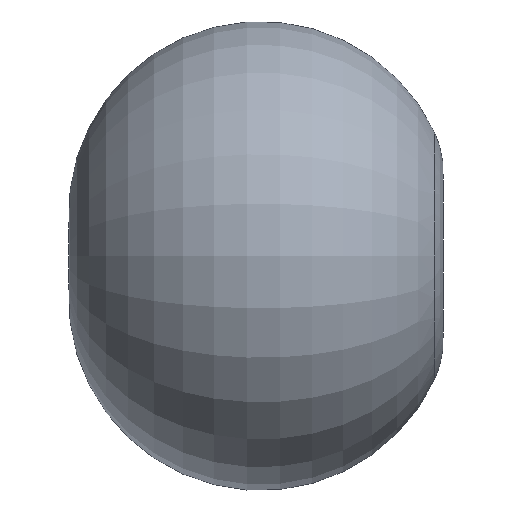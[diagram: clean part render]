
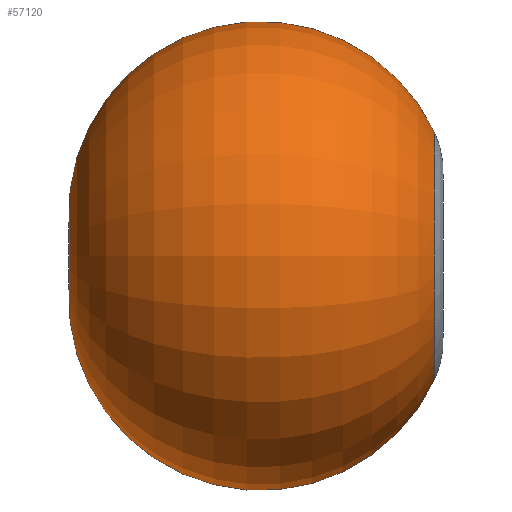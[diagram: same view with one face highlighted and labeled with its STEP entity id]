
A CAD part, left-side view. The second image highlights one B-rep face of the part: STEP entity #57120.
In plain terms, the highlighted toroidal (fillet/blend) face has major radius 300 mm and minor radius 1350.85 mm.
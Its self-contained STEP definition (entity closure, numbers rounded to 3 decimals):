
#16941 = CARTESIAN_POINT ( 'NONE',  ( 0., 600., -300. ) ) ;
#17045 = CARTESIAN_POINT ( 'NONE',  ( 0., 1917.113, 0. ) ) ;
#17047 = DIRECTION ( 'NONE',  ( 0., 0., -1. ) ) ;
#17049 = DIRECTION ( 'NONE',  ( 1., 0., 0. ) ) ;
#17050 = AXIS2_PLACEMENT_3D ( 'NONE', #16941, #17049, #17047 ) ;
#17051 = CIRCLE ( 'NONE', #17050, 1350.846 ) ;
#17139 = CARTESIAN_POINT ( 'NONE',  ( 0., -624.283, 870.892 ) ) ;
#17141 = CARTESIAN_POINT ( 'NONE',  ( 0., -624.283, -870.892 ) ) ;
#17513 = DIRECTION ( 'NONE',  ( 0., 0., 1. ) ) ;
#17515 = DIRECTION ( 'NONE',  ( -1., 0., 0. ) ) ;
#17517 = CARTESIAN_POINT ( 'NONE',  ( 0., 600., 300. ) ) ;
#17518 = AXIS2_PLACEMENT_3D ( 'NONE', #17517, #17515, #17513 ) ;
#17520 = CIRCLE ( 'NONE', #17518, 1350.846 ) ;
#17720 = DIRECTION ( 'NONE',  ( 0., 1., 0. ) ) ;
#17721 = AXIS2_PLACEMENT_3D ( 'NONE', #17735, #17720, #17842 ) ;
#17725 = TOROIDAL_SURFACE ( 'NONE', #17721, 300., 1350.846 ) ;
#17726 = FACE_OUTER_BOUND ( 'NONE', #57121, .T. ) ;
#17735 = CARTESIAN_POINT ( 'NONE',  ( 0., 600., 0. ) ) ;
#17842 = DIRECTION ( 'NONE',  ( 0., 0., 1. ) ) ;
#17971 = DIRECTION ( 'NONE',  ( 0., 0., 1. ) ) ;
#17972 = DIRECTION ( 'NONE',  ( 0., 1., 0. ) ) ;
#17973 = CARTESIAN_POINT ( 'NONE',  ( 0., -624.283, 0. ) ) ;
#17974 = AXIS2_PLACEMENT_3D ( 'NONE', #17973, #17972, #17971 ) ;
#17975 = CIRCLE ( 'NONE', #17974, 870.892 ) ;
#56947 = EDGE_CURVE ( 'NONE', #56977, #56948, #17051, .T. ) ;
#56948 = VERTEX_POINT ( 'NONE', #17045 ) ;
#56977 = VERTEX_POINT ( 'NONE', #17141 ) ;
#56978 = VERTEX_POINT ( 'NONE', #17139 ) ;
#57058 = EDGE_CURVE ( 'NONE', #56978, #56948, #17520, .T. ) ;
#57120 = ADVANCED_FACE ( 'NONE', ( #17726 ), #17725, .T. ) ;
#57121 = EDGE_LOOP ( 'NONE', ( #57122, #57174, #57176 ) ) ;
#57122 = ORIENTED_EDGE ( 'NONE', *, *, #56947, .F. ) ;
#57174 = ORIENTED_EDGE ( 'NONE', *, *, #57175, .T. ) ;
#57175 = EDGE_CURVE ( 'NONE', #56977, #56978, #17975, .T. ) ;
#57176 = ORIENTED_EDGE ( 'NONE', *, *, #57058, .T. ) ;
